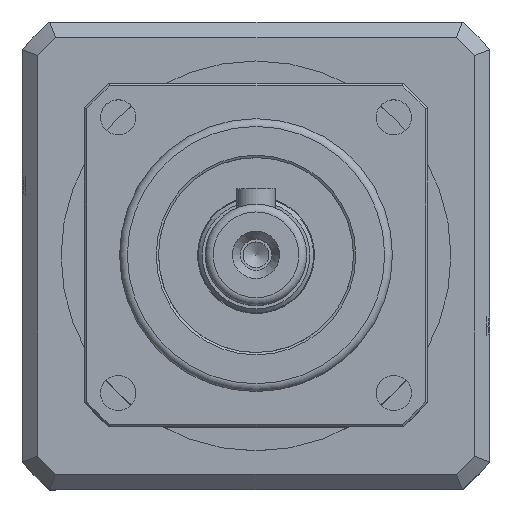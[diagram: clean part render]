
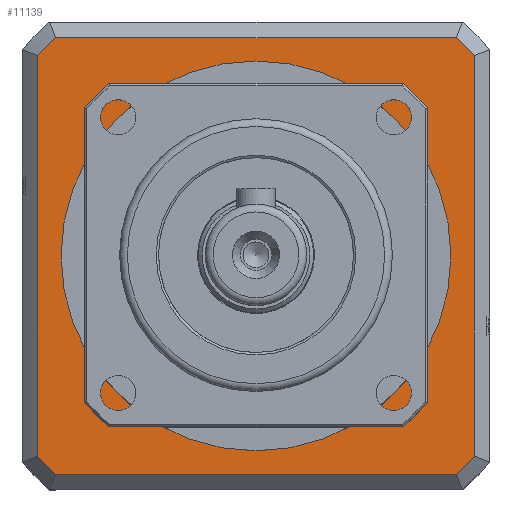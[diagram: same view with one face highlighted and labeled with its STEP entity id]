
A CAD part, top view. The second image highlights one B-rep face of the part: STEP entity #11139.
In plain terms, the highlighted planar face has unit normal (0, 0, 1) as drawn and (0, 0, -1) by its records, which use the part's own axes.
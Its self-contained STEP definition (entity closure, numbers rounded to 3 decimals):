
#10170=CARTESIAN_POINT('',(-25.69,-28.,0.0));
#10171=VERTEX_POINT('',#10170);
#10179=CARTESIAN_POINT('',(25.69,-28.,0.0));
#10180=VERTEX_POINT('',#10179);
#10181=CARTESIAN_POINT('',(-25.69,-28.,0.0));
#10182=DIRECTION('',(1.0,0.0,0.0));
#10183=VECTOR('',#10182,51.381);
#10184=LINE('',#10181,#10183);
#10185=EDGE_CURVE('',#10171,#10180,#10184,.T.);
#10885=CARTESIAN_POINT('',(-28.,25.69,0.0));
#10886=VERTEX_POINT('',#10885);
#10887=CARTESIAN_POINT('',(-28.,-25.69,0.0));
#10888=VERTEX_POINT('',#10887);
#10889=CARTESIAN_POINT('',(-28.,25.69,0.0));
#10890=DIRECTION('',(0.0,-1.0,0.0));
#10891=VECTOR('',#10890,51.381);
#10892=LINE('',#10889,#10891);
#10893=EDGE_CURVE('',#10886,#10888,#10892,.T.);
#10925=CARTESIAN_POINT('',(0.0,0.0,0.0));
#10926=DIRECTION('',(0.0,0.0,1.0));
#10927=DIRECTION('',(-0.75,-0.661,0.0));
#10928=AXIS2_PLACEMENT_3D('',#10925,#10926,#10927);
#10929=CIRCLE('',#10928,38.);
#10930=EDGE_CURVE('',#10888,#10171,#10929,.T.);
#10943=CARTESIAN_POINT('',(28.,-25.69,0.0));
#10944=VERTEX_POINT('',#10943);
#10945=CARTESIAN_POINT('',(0.0,0.0,0.0));
#10946=DIRECTION('',(0.0,0.0,1.0));
#10947=DIRECTION('',(0.661,-0.75,0.0));
#10948=AXIS2_PLACEMENT_3D('',#10945,#10946,#10947);
#10949=CIRCLE('',#10948,38.);
#10950=EDGE_CURVE('',#10180,#10944,#10949,.T.);
#10969=CARTESIAN_POINT('',(28.,25.69,0.0));
#10970=VERTEX_POINT('',#10969);
#10971=CARTESIAN_POINT('',(28.,-25.69,0.0));
#10972=DIRECTION('',(0.0,1.0,0.0));
#10973=VECTOR('',#10972,51.381);
#10974=LINE('',#10971,#10973);
#10975=EDGE_CURVE('',#10944,#10970,#10974,.T.);
#10994=CARTESIAN_POINT('',(25.69,28.,0.0));
#10995=VERTEX_POINT('',#10994);
#10996=CARTESIAN_POINT('',(0.0,0.0,0.0));
#10997=DIRECTION('',(0.0,0.0,1.0));
#10998=DIRECTION('',(0.75,0.661,0.0));
#10999=AXIS2_PLACEMENT_3D('',#10996,#10997,#10998);
#11000=CIRCLE('',#10999,38.);
#11001=EDGE_CURVE('',#10970,#10995,#11000,.T.);
#11029=CARTESIAN_POINT('',(-25.69,28.,0.0));
#11030=VERTEX_POINT('',#11029);
#11031=CARTESIAN_POINT('',(25.69,28.,0.0));
#11032=DIRECTION('',(-1.0,0.0,0.0));
#11033=VECTOR('',#11032,51.381);
#11034=LINE('',#11031,#11033);
#11035=EDGE_CURVE('',#10995,#11030,#11034,.T.);
#11053=CARTESIAN_POINT('',(0.0,0.0,0.0));
#11054=DIRECTION('',(0.0,0.0,1.0));
#11055=DIRECTION('',(-0.661,0.75,0.0));
#11056=AXIS2_PLACEMENT_3D('',#11053,#11054,#11055);
#11057=CIRCLE('',#11056,38.);
#11058=EDGE_CURVE('',#11030,#10886,#11057,.T.);
#11113=CARTESIAN_POINT('',(0.,0.,0.0));
#11114=DIRECTION('',(0.0,0.0,1.0));
#11115=DIRECTION('',(1.0,0.0,0.0));
#11116=AXIS2_PLACEMENT_3D('',#11113,#11114,#11115);
#11117=PLANE('',#11116);
#11118=ORIENTED_EDGE('',*,*,#10893,.F.);
#11119=ORIENTED_EDGE('',*,*,#11058,.F.);
#11120=ORIENTED_EDGE('',*,*,#11035,.F.);
#11121=ORIENTED_EDGE('',*,*,#11001,.F.);
#11122=ORIENTED_EDGE('',*,*,#10975,.F.);
#11123=ORIENTED_EDGE('',*,*,#10950,.F.);
#11124=ORIENTED_EDGE('',*,*,#10185,.F.);
#11125=ORIENTED_EDGE('',*,*,#10930,.F.);
#11126=EDGE_LOOP('',(#11118,#11119,#11120,#11121,#11122,#11123,#11124,#11125));
#11127=FACE_OUTER_BOUND('',#11126,.T.);
#11128=CARTESIAN_POINT('',(-25.0,0.,0.0));
#11129=VERTEX_POINT('',#11128);
#11130=CARTESIAN_POINT('',(0.0,0.0,0.0));
#11131=DIRECTION('',(0.0,0.0,1.0));
#11132=DIRECTION('',(1.0,0.0,0.0));
#11133=AXIS2_PLACEMENT_3D('',#11130,#11131,#11132);
#11134=CIRCLE('',#11133,25.0);
#11135=EDGE_CURVE('',#11129,#11129,#11134,.T.);
#11136=ORIENTED_EDGE('',*,*,#11135,.T.);
#11137=EDGE_LOOP('',(#11136));
#11138=FACE_BOUND('',#11137,.T.);
#11139=ADVANCED_FACE('',(#11127,#11138),#11117,.F.);
